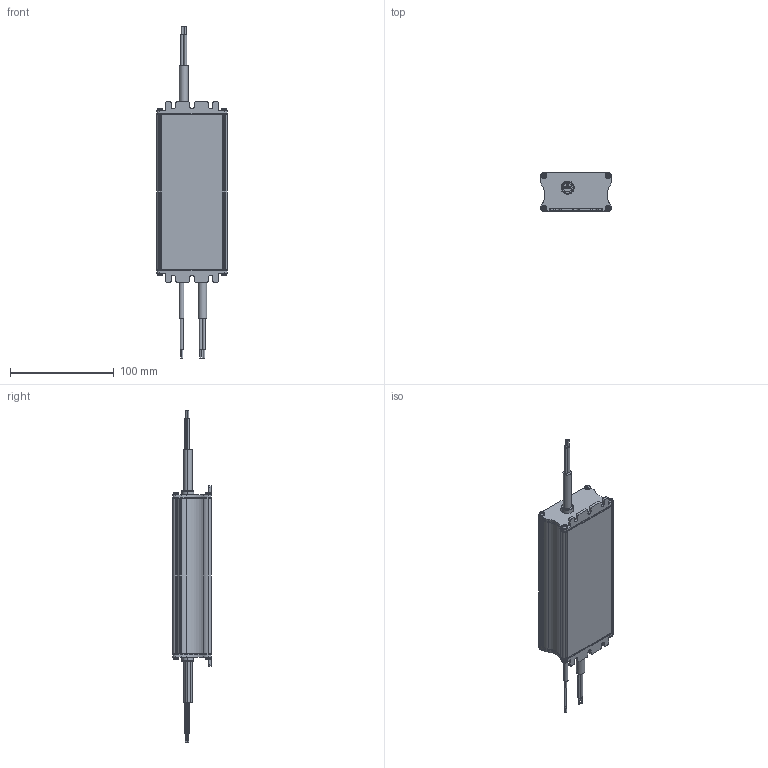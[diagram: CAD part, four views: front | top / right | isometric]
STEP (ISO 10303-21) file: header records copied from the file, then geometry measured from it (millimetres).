
FILE_DESCRIPTION((''),'2;1');
FILE_NAME('USCO-100140GA_ASM','2017-12-19T',('JACKY.LEE'),(''),'PRO/ENGINEER BY PARAMETRIC TECHNOLOGY CORPORATION, 2009440','PRO/ENGINEER BY PARAMETRIC TECHNOLOGY CORPORATION, 2009440','');
FILE_SCHEMA(('CONFIG_CONTROL_DESIGN'));
Length unit declared in the file: millimetre
Products named in the file (12): HOUSING; SEALANT_INPUT_USCO-100140GA; SEALANT_OUTPUT_USCO-100140GA; BRACKET_IN_USCO150140GC; BRACKET_OUT_USCO150140GC; SCREW_PAN-M3-10L-ZN; MYLAR; INPUT_CABLE_SJOW_H05RN-F_YZW; OUTPUT_CABLE_SJOW_H05RN-F_YZW; PROGRAMMABLE_CABLE_PLTC_3C; LABEL; USCO-100140GA_ASM
Assembly tree (18 placements, depth 2):
  USCO-100140GA_ASM
    HOUSING
    SEALANT_INPUT_USCO-100140GA
    SEALANT_OUTPUT_USCO-100140GA
    BRACKET_IN_USCO150140GC
    BRACKET_OUT_USCO150140GC
    SCREW_PAN-M3-10L-ZN  x8
    MYLAR
    INPUT_CABLE_SJOW_H05RN-F_YZW
    OUTPUT_CABLE_SJOW_H05RN-F_YZW
    PROGRAMMABLE_CABLE_PLTC_3C
    LABEL
Bounding box: 68 x 37 x 320.5 mm (x, y, z)
Volume: 105925.6 mm3; surface area: 159913.6 mm2
Topology: 18 solids, 18 shells, 1593 faces, 4430 edges, 2938 vertices
Faces by surface type: plane 1240, cylinder 317, torus 28, cone 8
Entity records: 42828 total; most frequent: CARTESIAN_POINT 7732, ORIENTED_EDGE 7460, DIRECTION 6840, EDGE_CURVE 3730, VECTOR 3264, LINE 3264, VERTEX_POINT 2476, AXIS2_PLACEMENT_3D 1788
